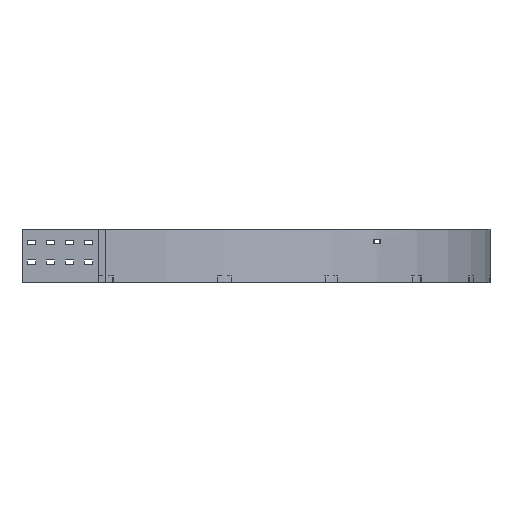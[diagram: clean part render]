
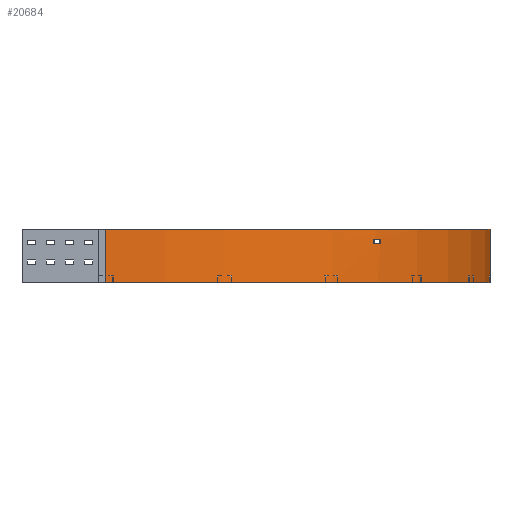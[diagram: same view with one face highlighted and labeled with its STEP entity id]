
A CAD part, front view. The second image highlights one B-rep face of the part: STEP entity #20684.
In plain terms, the highlighted cylindrical face has radius 1011 mm (diameter 2022 mm), a partial arc.
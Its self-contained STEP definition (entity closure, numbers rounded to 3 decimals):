
#515=FACE_BOUND('',#2980,.T.);
#955=CYLINDRICAL_SURFACE('',#21767,1011.);
#988=CIRCLE('',#21759,1011.);
#993=CIRCLE('',#21766,1011.);
#994=CIRCLE('',#21768,1011.);
#995=CIRCLE('',#21769,1011.);
#1922=FACE_OUTER_BOUND('',#2979,.T.);
#2979=EDGE_LOOP('',(#13976,#13977,#13978,#13979));
#2980=EDGE_LOOP('',(#13980,#13981,#13982,#13983));
#4475=LINE('',#28645,#6631);
#4481=LINE('',#28669,#6637);
#4482=LINE('',#28674,#6638);
#4483=LINE('',#28677,#6639);
#6631=VECTOR('',#23362,304.8);
#6637=VECTOR('',#23388,304.8);
#6638=VECTOR('',#23391,304.8);
#6639=VECTOR('',#23394,304.8);
#8784=VERTEX_POINT('',#28638);
#8787=VERTEX_POINT('',#28643);
#8788=VERTEX_POINT('',#28647);
#8795=VERTEX_POINT('',#28665);
#8796=VERTEX_POINT('',#28670);
#8797=VERTEX_POINT('',#28671);
#8798=VERTEX_POINT('',#28673);
#8799=VERTEX_POINT('',#28675);
#10851=EDGE_CURVE('',#8787,#8784,#4475,.T.);
#10852=EDGE_CURVE('',#8784,#8788,#988,.T.);
#10862=EDGE_CURVE('',#8795,#8787,#993,.T.);
#10863=EDGE_CURVE('',#8788,#8795,#4481,.T.);
#10864=EDGE_CURVE('',#8796,#8797,#994,.T.);
#10865=EDGE_CURVE('',#8797,#8798,#4482,.T.);
#10866=EDGE_CURVE('',#8798,#8799,#995,.T.);
#10867=EDGE_CURVE('',#8799,#8796,#4483,.T.);
#13976=ORIENTED_EDGE('',*,*,#10851,.F.);
#13977=ORIENTED_EDGE('',*,*,#10862,.F.);
#13978=ORIENTED_EDGE('',*,*,#10863,.F.);
#13979=ORIENTED_EDGE('',*,*,#10852,.F.);
#13980=ORIENTED_EDGE('',*,*,#10864,.T.);
#13981=ORIENTED_EDGE('',*,*,#10865,.T.);
#13982=ORIENTED_EDGE('',*,*,#10866,.T.);
#13983=ORIENTED_EDGE('',*,*,#10867,.T.);
#20684=ADVANCED_FACE('',(#1922,#515),#955,.T.);
#21759=AXIS2_PLACEMENT_3D('',#28648,#23365,#23366);
#21766=AXIS2_PLACEMENT_3D('',#28667,#23384,#23385);
#21767=AXIS2_PLACEMENT_3D('',#28668,#23386,#23387);
#21768=AXIS2_PLACEMENT_3D('',#28672,#23389,#23390);
#21769=AXIS2_PLACEMENT_3D('',#28676,#23392,#23393);
#23362=DIRECTION('',(0.,0.,1.));
#23365=DIRECTION('center_axis',(0.,0.,1.));
#23366=DIRECTION('ref_axis',(0.,-1.,0.));
#23384=DIRECTION('center_axis',(0.,0.,-1.));
#23385=DIRECTION('ref_axis',(0.,-1.,0.));
#23386=DIRECTION('center_axis',(0.,0.,1.));
#23387=DIRECTION('ref_axis',(0.,-1.,0.));
#23388=DIRECTION('',(0.,0.,-1.));
#23389=DIRECTION('center_axis',(0.,0.,1.));
#23390=DIRECTION('ref_axis',(0.,-1.,0.));
#23391=DIRECTION('',(0.,0.,-1.));
#23392=DIRECTION('center_axis',(0.,0.,-1.));
#23393=DIRECTION('ref_axis',(0.,-1.,0.));
#23394=DIRECTION('',(0.,0.,1.));
#28638=CARTESIAN_POINT('',(-655.5,-355.5,71.));
#28643=CARTESIAN_POINT('',(-655.5,-355.5,-71.));
#28645=CARTESIAN_POINT('',(-655.5,-355.5,-71.));
#28647=CARTESIAN_POINT('',(355.5,655.5,71.));
#28648=CARTESIAN_POINT('Origin',(-655.5,655.5,71.));
#28665=CARTESIAN_POINT('',(355.5,655.5,-71.));
#28667=CARTESIAN_POINT('Origin',(-655.5,655.5,-71.));
#28668=CARTESIAN_POINT('Origin',(-655.5,655.5,0.));
#28669=CARTESIAN_POINT('',(355.5,655.5,71.));
#28670=CARTESIAN_POINT('',(51.662,-67.025,44.));
#28671=CARTESIAN_POINT('',(67.216,-51.467,44.));
#28672=CARTESIAN_POINT('Origin',(-655.5,655.5,44.));
#28673=CARTESIAN_POINT('',(67.216,-51.467,33.));
#28674=CARTESIAN_POINT('',(67.216,-51.467,44.));
#28675=CARTESIAN_POINT('',(51.662,-67.025,33.));
#28676=CARTESIAN_POINT('Origin',(-655.5,655.5,33.));
#28677=CARTESIAN_POINT('',(51.662,-67.025,33.));
